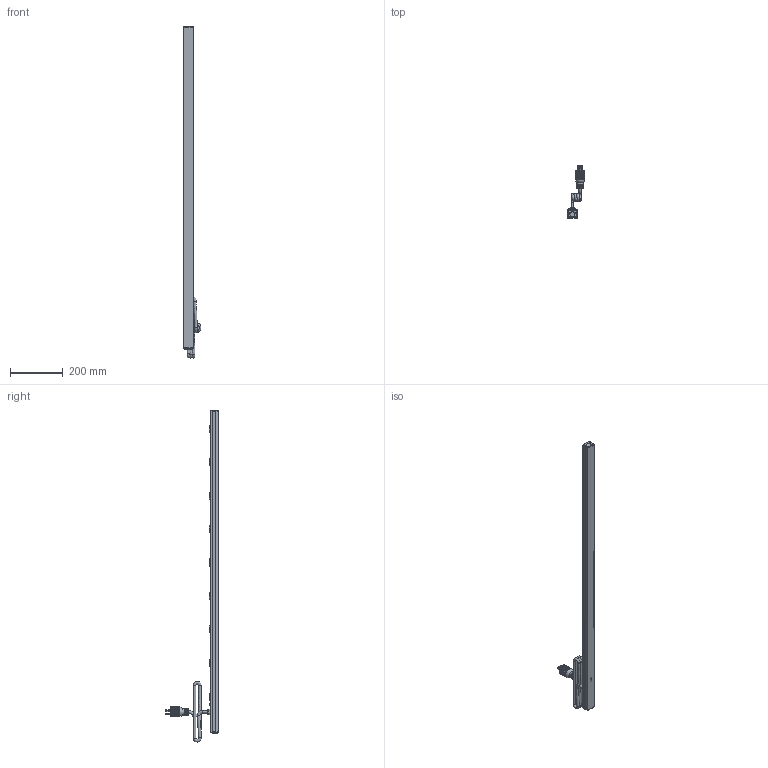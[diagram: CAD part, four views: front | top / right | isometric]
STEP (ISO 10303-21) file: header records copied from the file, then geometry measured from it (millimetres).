
FILE_DESCRIPTION((''),'2;1');
FILE_NAME('E:\Dutton\Manufacturing\drawings\Updated 2009\Vertical Rack Mount Strips\1585 T series\STEP''s\1585H8C1.stp','2010-01-18T13:09:09',('tfoster'),(''),'Autodesk Inventor 2010','Autodesk Inventor 2010','');
FILE_SCHEMA(('AUTOMOTIVE_DESIGN { 1 0 10303 214 1 1 1 1 }'));
Products named in the file (14): 1585H8C1; 1585H8 top; 1585 bottom; End Cap; End Cap w breaker; Reset Switch; #6 - 0.375 Type A screw; Twist Cored 2; toothwasher; round head 1-way 8-32 x 0.5 screw; Power Switch Assembly; Power Switch; Power Switch pt; Receptacle
Assembly tree (23 placements, depth 3):
  1585H8C1
    1585H8 top
    1585 bottom
    End Cap
    End Cap w breaker
    Reset Switch
    #6 - 0.375 Type A screw  x4
    Twist Cored 2
    toothwasher
    round head 1-way 8-32 x 0.5 screw
    Power Switch Assembly
      Power Switch
      Power Switch pt
    Receptacle  x8
Bounding box: 68.19 x 199.14 x 1262.78 mm (x, y, z)
Volume: 544296.7 mm3; surface area: 485263.4 mm2
Topology: 22 solids, 22 shells, 1307 faces, 3683 edges, 2421 vertices
Faces by surface type: plane 816, cylinder 284, bspline 130, sphere 37, cone 25, torus 15
Full cylindrical faces by diameter (mm): 1 x2, 1.803 x3, 1.905 x2, 3.175 x15, 4.3 x1, 4.826 x1, 7.849 x1, 9.5 x5, 11 x1, 19.05 x2, 21.59 x2, 22.86 x1, 24.765 x3
Entity records: 32159 total; most frequent: CARTESIAN_POINT 10149, ORIENTED_EDGE 4678, DIRECTION 4143, EDGE_CURVE 2339, VERTEX_POINT 1605, VECTOR 1407, LINE 1407, AXIS2_PLACEMENT_3D 1368
